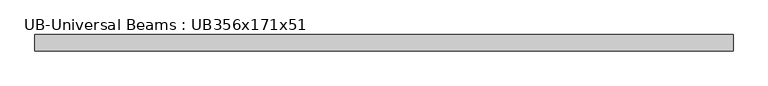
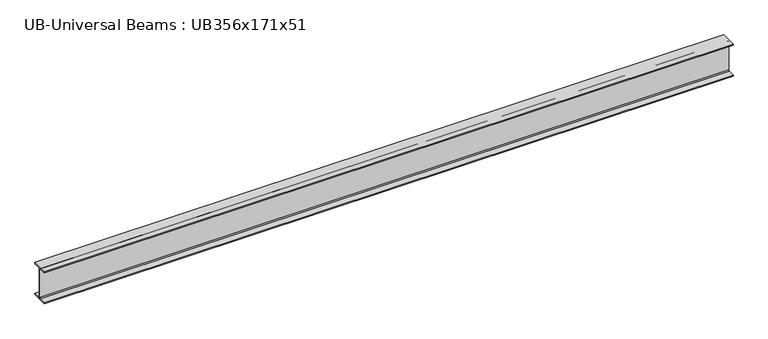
"""IFC4 building model written with IfcOpenShell, lengths in millimetres: beam geometry, UB-Universal Beams : UB356x171x51."""

from ifc_helpers import new_model, si_unit, point, frame, frame_2d, origin, place, context, project, spatial, polyline, circle_curve, trimmed, segment, composite_curve, outline, extrude, source, transform, mapped, element, save


def ub_universal_beams_ub356x171x51_6da510e9(model_context):
    return source(origin(), model_context, "Body", "SweptSolid", [
        extrude(outline(composite_curve([segment(polyline([(85.75, -166.0), (85.75, -177.5), (-85.75, -177.5), (-85.75, -166.0), (-13.9, -166.0)]), True, "CONTINUOUS"), segment(trimmed(circle_curve(frame_2d((-13.9, -155.8)), 10.2), [point((-13.9, -166.0))], [point((-3.7, -155.8))], True, "CARTESIAN"), True, "CONTINUOUS"), segment(polyline([(-3.7, -155.8), (-3.7, 155.8)]), True, "CONTINUOUS"), segment(trimmed(circle_curve(frame_2d((-13.9, 155.8)), 10.2), [point((-3.7, 155.8))], [point((-13.9, 166.0))], True, "CARTESIAN"), True, "CONTINUOUS"), segment(polyline([(-13.9, 166.0), (-85.75, 166.0), (-85.75, 177.5), (85.75, 177.5), (85.75, 166.0), (13.9, 166.0)]), True, "CONTINUOUS"), segment(trimmed(circle_curve(frame_2d((13.9, 155.8)), 10.2), [point((13.9, 166.0))], [point((3.7, 155.8))], True, "CARTESIAN"), True, "CONTINUOUS"), segment(polyline([(3.7, 155.8), (3.7, -155.8)]), True, "CONTINUOUS"), segment(trimmed(circle_curve(frame_2d((13.9, -155.8)), 10.2), [point((3.7, -155.8))], [point((13.9, -166.0))], True, "CARTESIAN"), True, "CONTINUOUS"), segment(polyline([(13.9, -166.0), (85.75, -166.0)]), True, "CONTINUOUS")], self_intersect=False)), frame((-3643.3, 0.0, 0.0), z_axis=(1.0, 0.0, 0.0), x_axis=(0.0, 1.0, 0.0)), (0.0, 0.0, 1.0), 7228.2),
    ])


if __name__ == "__main__":
    model = new_model("IFC4")
    model_context = context("Model", 3, world=origin())
    ifc_project = project(units=[si_unit("LENGTHUNIT", "METRE", prefix="MILLI")], contexts=[model_context])
    site = spatial("IfcSite", under=ifc_project)
    building = spatial("IfcBuilding", under=site)
    placement = place(None, origin())
    ub_universal_beams_ub356x171x51_shape = ub_universal_beams_ub356x171x51_6da510e9(model_context)
    element("IfcBeam", 1, ObjectType="UB-Universal Beams : UB356x171x51", at=placement, inside=building, context=model_context, shape_type="MappedRepresentation", body=[
        mapped(ub_universal_beams_ub356x171x51_shape, transform((0.0, 0.0, 0.0), x_axis=(1.0, 0.0, 0.0), y_axis=(0.0, 1.0, 0.0), z_axis=(0.0, 0.0, 1.0))),
    ])
    save(model, "model.ifc")
